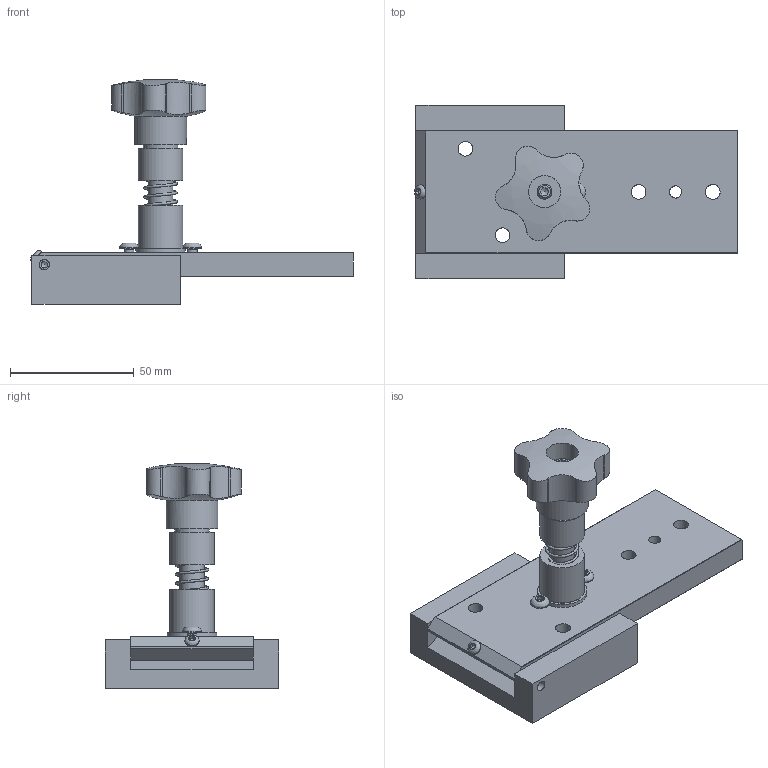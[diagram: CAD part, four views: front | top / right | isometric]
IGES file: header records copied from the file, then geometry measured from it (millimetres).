
Global section: file name: 265.00; native system: Autodesk Inventor 2021; preprocessor: unknown; author: APto; date: 20210309.140433; units: millimetre
Bounding box: 130.58 x 70 x 90.71 mm (x, y, z)
Volume: 139442.7 mm3; surface area: 46934.9 mm2
Topology: 14 solids, 14 shells, 208 faces, 568 edges, 400 vertices
Faces by surface type: bspline 208
